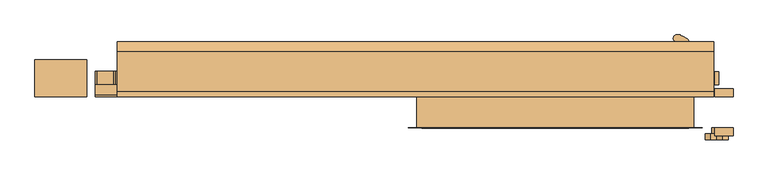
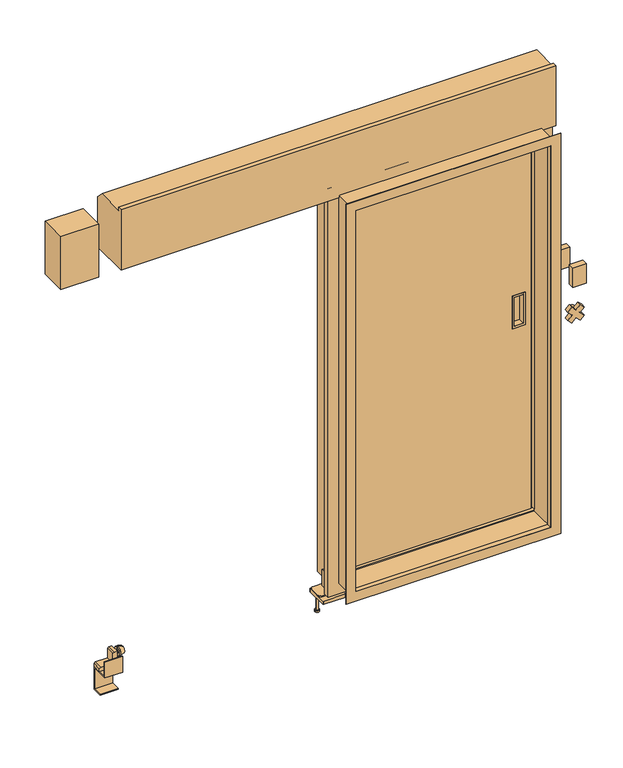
"""IFC4 building model written with IfcOpenShell, lengths in millimetres: door geometry, 冷凍_片引きスライドドア4方_電動 : W870xH1800xt100."""

from ifc_helpers import new_model, si_unit, point, frame, frame_2d, origin, place, context, project, spatial, polyline, circle_curve, trimmed, segment, composite_curve, outline, extrude, faceted_brep, source, transform, mapped, element, save
from ifc_brep_helpers import plane_surface, cylinder_surface, revolved_surface, advanced_brep


def door_05fedcf8(model_context):
    return source(origin(), model_context, "Body", "SolidModel", [
        faceted_brep([(470.0, 185.5, 1835.0), (-470.0, 185.5, 1835.0), (-470.0, 96.5, 1835.0), (470.0, 96.5, 1835.0), (470.0, 185.5, -35.0), (470.0, 96.5, -35.0), (-470.0, 96.5, -35.0), (-470.0, 185.5, -35.0), (-425.0, 96.5, 1790.0), (425.0, 96.5, 1790.0), (425.0, 96.5, 10.0), (-425.0, 96.5, 10.0), (-425.0, 85.5, 1790.0), (425.0, 85.5, 1790.0), (425.0, 85.5, 10.0), (-425.0, 85.5, 10.0), (350.500035, 85.5, 1033.0), (390.500035, 85.5, 1033.0), (390.500035, 85.5, 897.0), (350.500035, 85.5, 897.0), (350.500035, 113.5, 1033.0), (390.500035, 113.5, 1033.0), (350.500035, 113.5, 897.0), (390.500035, 113.5, 897.0)], [[[0, 1, 2, 3]], [[4, 5, 6, 7]], [[1, 0, 4, 7]], [[2, 1, 7, 6]], [[3, 2, 6, 5], [8, 9, 10, 11]], [[0, 3, 5, 4]], [[8, 12, 13, 9]], [[10, 14, 15, 11]], [[12, 8, 11, 15]], [[13, 12, 15, 14], [16, 17, 18, 19]], [[9, 13, 14, 10]], [[20, 21, 17, 16]], [[20, 16, 19, 22]], [[22, 19, 18, 23]], [[17, 21, 23, 18]], [[21, 20, 22, 23]]]),
        extrude(outline(polyline([(1042.0, 399.500035), (1042.0, 341.500035), (888.0, 341.500035), (888.0, 399.500035), (1042.0, 399.500035)]), holes=[polyline([(897.0, 390.500035), (897.0, 350.500035), (1033.0, 350.500035), (1033.0, 390.500035), (897.0, 390.500035)])]), frame((0.0, 83.499995, 0.0), z_axis=(0.0, 1.0, 0.0), x_axis=(0.0, 0.0, 1.0)), (0.0, 0.0, 1.0), 2.000005),
        extrude(outline(polyline([(101.49997, -69.99999), (89.49997, -57.99999), (89.49997, 5.00001), (139.5, 5.00001), (139.5, -69.99999), (101.49997, -69.99999)])), frame((-476.0, 0.0, 0.0), z_axis=(1.0, 0.0, 0.0), x_axis=(0.0, 1.0, 0.0)), (0.0, 0.0, 1.0), 6.0),
        extrude(outline(polyline([(101.5, -69.99999), (89.5, -57.99999), (89.5, 5.00001), (139.5, 5.00001), (139.5, -69.99999), (101.5, -69.99999)])), frame((470.0, 0.0, 0.0), z_axis=(1.0, 0.0, 0.0), x_axis=(0.0, 1.0, 0.0)), (0.0, 0.0, 1.0), 6.0),
        extrude(outline(polyline([(470.0, 131.50003), (470.0, 96.5), (-470.0, 96.5), (-470.0, 131.50003), (470.0, 131.50003)])), frame((0.0, 0.0, -69.99999), z_axis=(0.0, 0.0, 1.0), x_axis=(1.0, 0.0, 0.0)), (0.0, 0.0, 1.0), 34.99999),
        extrude(outline(polyline([(-462.9985861, 96.5), (462.9985861, 96.5), (462.9985861, 79.499345), (-462.9985861, 79.499345), (-462.9985861, 96.5)])), frame((0.0, 0.0, -25.0), z_axis=(0.0, 0.0, 1.0), x_axis=(1.0, 0.0, 0.0)), (0.0, 0.0, 1.0), 28.0),
        extrude(outline(polyline([(462.9985861, 77.0), (435.0014439, 77.0), (435.0014439, 96.5), (462.9985861, 96.5), (462.9985861, 77.0)])), frame((0.0, 0.0, 10.0), z_axis=(0.0, 0.0, 1.0), x_axis=(1.0, 0.0, 0.0)), (0.0, 0.0, 1.0), 1780.0),
        extrude(outline(polyline([(-462.9985861, 77.0), (-462.9985861, 96.5), (-435.0014439, 96.5), (-435.0014439, 77.0), (-462.9985861, 77.0)])), frame((0.0, 0.0, 10.0), z_axis=(0.0, 0.0, 1.0), x_axis=(1.0, 0.0, 0.0)), (0.0, 0.0, 1.0), 1780.0),
        extrude(outline(polyline([(462.9985861, 96.5), (462.9985861, 76.9116213), (-462.9985861, 76.9116213), (-462.9985861, 96.5), (462.9985861, 96.5)])), frame((0.0, 0.0, 1797.4986091), z_axis=(0.0, 0.0, 1.0), x_axis=(1.0, 0.0, 0.0)), (0.0, 0.0, 1.0), 28.0),
        extrude(outline(composite_curve([segment(trimmed(circle_curve(frame_2d((-405.4891322, 180.0220459)), 2.0), [point((-405.4891322, 182.0220459))], [point((-403.4891322, 180.0220459))], False, "CARTESIAN"), True, "CONTINUOUS"), segment(polyline([(-403.4891322, 180.0220459), (-403.4891322, 82.0220459)]), True, "CONTINUOUS"), segment(trimmed(circle_curve(frame_2d((-405.4891322, 82.0220459)), 2.0), [point((-403.4891322, 82.0220459))], [point((-405.4891322, 80.0220459))], False, "CARTESIAN"), True, "CONTINUOUS"), segment(polyline([(-405.4891322, 80.0220459), (-503.4891322, 80.0220459)]), True, "CONTINUOUS"), segment(trimmed(circle_curve(frame_2d((-503.4891322, 82.0220459)), 2.0), [point((-503.4891322, 80.0220459))], [point((-505.4891322, 82.0220459))], False, "CARTESIAN"), True, "CONTINUOUS"), segment(polyline([(-505.4891322, 82.0220459), (-505.4891322, 180.0220459)]), True, "CONTINUOUS"), segment(trimmed(circle_curve(frame_2d((-503.4891322, 180.0220459)), 2.0), [point((-505.4891322, 180.0220459))], [point((-503.4891322, 182.0220459))], False, "CARTESIAN"), True, "CONTINUOUS"), segment(polyline([(-503.4891322, 182.0220459), (-405.4891322, 182.0220459)]), True, "CONTINUOUS")], self_intersect=False)), frame((0.0, 0.0, -115.0), z_axis=(0.0, 0.0, 1.0), x_axis=(1.0, 0.0, 0.0)), (0.0, 0.0, 1.0), 15.0),
        extrude(outline(composite_curve([segment(trimmed(circle_curve(frame_2d((503.0, 180.0)), 2.0), [point((503.0, 182.0))], [point((505.0, 180.0))], False, "CARTESIAN"), True, "CONTINUOUS"), segment(polyline([(505.0, 180.0), (505.0, 82.0)]), True, "CONTINUOUS"), segment(trimmed(circle_curve(frame_2d((503.0, 82.0)), 2.0), [point((505.0, 82.0))], [point((503.0, 80.0))], False, "CARTESIAN"), True, "CONTINUOUS"), segment(polyline([(503.0, 80.0), (405.0, 80.0)]), True, "CONTINUOUS"), segment(trimmed(circle_curve(frame_2d((405.0, 82.0)), 2.0), [point((405.0, 80.0))], [point((403.0, 82.0))], False, "CARTESIAN"), True, "CONTINUOUS"), segment(polyline([(403.0, 82.0), (403.0, 180.0)]), True, "CONTINUOUS"), segment(trimmed(circle_curve(frame_2d((405.0, 180.0)), 2.0), [point((403.0, 180.0))], [point((405.0, 182.0))], False, "CARTESIAN"), True, "CONTINUOUS"), segment(polyline([(405.0, 182.0), (503.0, 182.0)]), True, "CONTINUOUS")], self_intersect=False)), frame((0.0, 0.0, -115.0), z_axis=(0.0, 0.0, 1.0), x_axis=(1.0, 0.0, 0.0)), (0.0, 0.0, 1.0), 15.0),
        extrude(outline(composite_curve([segment(polyline([(-495.00008, 179.49999), (-444.00008, 179.49999)]), True, "CONTINUOUS"), segment(trimmed(circle_curve(frame_2d((-444.00008, 169.49999)), 10.0), [point((-444.00008, 179.49999))], [point((-434.00008, 169.49999))], False, "CARTESIAN"), True, "CONTINUOUS"), segment(polyline([(-434.00008, 169.49999), (-434.00008, 118.49999)]), True, "CONTINUOUS"), segment(trimmed(circle_curve(frame_2d((-444.00008, 118.49999)), 10.0), [point((-434.00008, 118.49999))], [point((-444.00008, 108.49999))], False, "CARTESIAN"), True, "CONTINUOUS"), segment(polyline([(-444.00008, 108.49999), (-495.00008, 108.49999)]), True, "CONTINUOUS"), segment(trimmed(circle_curve(frame_2d((-495.00008, 118.49999)), 10.0), [point((-495.00008, 108.49999))], [point((-505.00008, 118.49999))], False, "CARTESIAN"), True, "CONTINUOUS"), segment(polyline([(-505.00008, 118.49999), (-505.00008, 169.49999)]), True, "CONTINUOUS"), segment(trimmed(circle_curve(frame_2d((-495.00008, 169.49999)), 10.0), [point((-505.00008, 169.49999))], [point((-495.00008, 179.49999))], False, "CARTESIAN"), True, "CONTINUOUS")], self_intersect=False)), frame((0.0, 0.0, -100.0), z_axis=(0.0, 0.0, 1.0), x_axis=(1.0, 0.0, 0.0)), (0.0, 0.0, 1.0), 6.0),
        extrude(outline(composite_curve([segment(polyline([(504.50008, 169.49999), (504.50008, 118.49999)]), True, "CONTINUOUS"), segment(trimmed(circle_curve(frame_2d((494.50008, 118.49999)), 10.0), [point((504.50008, 118.49999))], [point((494.50008, 108.49999))], False, "CARTESIAN"), True, "CONTINUOUS"), segment(polyline([(494.50008, 108.49999), (443.499285, 108.49999)]), True, "CONTINUOUS"), segment(trimmed(circle_curve(frame_2d((443.499285, 118.49999)), 10.0), [point((443.499285, 108.49999))], [point((433.499285, 118.49999))], False, "CARTESIAN"), True, "CONTINUOUS"), segment(polyline([(433.499285, 118.49999), (433.499285, 169.49999)]), True, "CONTINUOUS"), segment(trimmed(circle_curve(frame_2d((443.499285, 169.49999)), 10.0), [point((433.499285, 169.49999))], [point((443.499285, 179.49999))], False, "CARTESIAN"), True, "CONTINUOUS"), segment(polyline([(443.499285, 179.49999), (494.50008, 179.49999)]), True, "CONTINUOUS"), segment(trimmed(circle_curve(frame_2d((494.50008, 169.49999)), 10.0), [point((494.50008, 179.49999))], [point((504.50008, 169.49999))], False, "CARTESIAN"), True, "CONTINUOUS")], self_intersect=False)), frame((0.0, 0.0, -100.0), z_axis=(0.0, 0.0, 1.0), x_axis=(1.0, 0.0, 0.0)), (0.0, 0.0, 1.0), 6.0),
        extrude(outline(polyline([(-93.999374, 532.0), (-24.00937, 532.0), (-24.00229, 517.0), (-29.00275, 511.99999), (-74.00938, 511.99999), (-74.00689, 457.0), (-79.00735, 451.99999), (-94.00939, 451.99999), (-93.999374, 532.0)])), frame((0.0, 90.0, 0.0), z_axis=(0.0, 1.0, 0.0), x_axis=(0.0, 0.0, 1.0)), (0.0, 0.0, 1.0), 42.00225),
        extrude(outline(polyline([(1037.123106, 544.9454365), (1017.6776695, 525.5), (1037.123106, 506.0545635), (1019.4454365, 488.376894), (1000.0, 507.8223305), (980.5545635, 488.376894), (962.876894, 506.0545635), (982.3223305, 525.5), (962.876894, 544.9454365), (980.5545635, 562.623106), (1000.0, 543.1776695), (1019.4454365, 562.623106), (1037.123106, 544.9454365)])), frame((0.0, -90.0, 0.0), z_axis=(0.0, 1.0, 0.0), x_axis=(0.0, 0.0, 1.0)), (0.0, 0.0, 1.0), 20.0),
        extrude(outline(composite_curve([segment(trimmed(circle_curve(frame_2d((1000.0, 525.5)), 16.99999), [point((983.00001, 525.5))], [point((1016.99999, 525.5))], False, "CARTESIAN"), True, "CONTINUOUS"), segment(trimmed(circle_curve(frame_2d((1000.0, 525.5)), 16.99999), [point((1016.99999, 525.5))], [point((983.00001, 525.5))], False, "CARTESIAN"), True, "CONTINUOUS")], self_intersect=False)), frame((0.0, -70.0, 0.0), z_axis=(0.0, 1.0, 0.0), x_axis=(0.0, 0.0, 1.0)), (0.0, 0.0, 1.0), 20.0),
        advanced_brep(
        [(-1404.999995, 113.0, -58.99311), (-1404.999995, 113.0, -19.0), (-1404.999995, 113.0, -30.996555), (-1404.999995, 113.0, -46.996555), (-1400.999995, 113.0, -58.99311), (-1400.999995, 113.0, -19.0), (-1380.999995, 113.0, -53.9931073), (-1380.999995, 113.0, -24.0000027), (-1380.999995, 113.0, -38.996555), (-1416.99999, 113.0, -46.996555), (-1416.99999, 113.0, -30.996555), (-1416.99999, 113.0, -38.996555)],
        [
            (0, 1, circle_curve(frame((-1404.999995, 113.0, -38.996555), z_axis=(-1.0, 0.0, 0.0), x_axis=(0.0, 0.0, 1.0)), 19.996555)),
            (1, 2),
            (2, 3, circle_curve(frame((-1404.999995, 113.0, -38.996555), z_axis=(1.0, 0.0, 0.0), x_axis=(0.0, 0.0, 1.0)), 8.0)),
            (3, 0),
            (1, 0, circle_curve(frame((-1404.999995, 113.0, -38.996555), z_axis=(-1.0, 0.0, 0.0), x_axis=(0.0, 0.0, 1.0)), 19.996555)),
            (3, 2, circle_curve(frame((-1404.999995, 113.0, -38.996555), z_axis=(1.0, 0.0, 0.0), x_axis=(0.0, 0.0, 1.0)), 8.0)),
            (4, 5, circle_curve(frame((-1400.999995, 113.0, -38.996555), z_axis=(-1.0, 0.0, 0.0), x_axis=(0.0, 0.0, 1.0)), 19.996555)),
            (5, 1),
            (0, 4),
            (5, 4, circle_curve(frame((-1400.999995, 113.0, -38.996555), z_axis=(-1.0, 0.0, 0.0), x_axis=(0.0, 0.0, 1.0)), 19.996555)),
            (6, 7, circle_curve(frame((-1380.999995, 113.0, -38.996555), z_axis=(-1.0, 0.0, 0.0), x_axis=(0.0, 0.0, 1.0)), 14.9965523)),
            (7, 5),
            (4, 6),
            (7, 6, circle_curve(frame((-1380.999995, 113.0, -38.996555), z_axis=(-1.0, 0.0, 0.0), x_axis=(0.0, 0.0, 1.0)), 14.9965523)),
            (8, 7),
            (6, 8),
            (9, 10, circle_curve(frame((-1416.99999, 113.0, -38.996555), z_axis=(-1.0, 0.0, 0.0), x_axis=(0.0, 0.0, 1.0)), 8.0)),
            (10, 11),
            (11, 9),
            (10, 9, circle_curve(frame((-1416.99999, 113.0, -38.996555), z_axis=(-1.0, 0.0, 0.0), x_axis=(0.0, 0.0, 1.0)), 8.0)),
            (2, 10),
            (9, 3),
        ],
        [
            plane_surface(frame((-1404.999995, 113.0, -38.996555), z_axis=(-1.0, 0.0, 0.0), x_axis=(0.0, 0.0, 1.0))),
            cylinder_surface(frame((-1380.999995, 113.0, -38.996555), z_axis=(1.0, 0.0, 0.0), x_axis=(0.0, 0.0, 1.0)), 19.996555),
            revolved_surface(polyline([(-1400.999995, 113.0, -19.0), (-1380.999995, 113.0, -24.0000027)]), (-1380.999995, 113.0, -38.996555), (1.0, 0.0, 0.0)),
            plane_surface(frame((-1380.999995, 113.0, -38.996555), z_axis=(1.0, 0.0, 0.0), x_axis=(0.0, 0.0, 1.0))),
            plane_surface(frame((-1416.99999, 113.0, -38.996555), z_axis=(-1.0, 0.0, 0.0), x_axis=(0.0, 0.0, 1.0))),
            cylinder_surface(frame((-1380.999995, 113.0, -38.996555), z_axis=(1.0, 0.0, 0.0), x_axis=(0.0, 0.0, 1.0)), 8.0),
        ],
        [
            (0, [[1, 2, 3, 4]]),
            (0, [[5, -4, 6, -2]]),
            (1, [[7, 8, -1, 9]]),
            (1, [[10, -9, -5, -8]]),
            (2, [[11, 12, -7, 13]]),
            (2, [[14, -13, -10, -12]]),
            (3, [[15, -11, 16]]),
            (3, [[-16, -14, -15]]),
            (4, [[17, 18, 19]]),
            (4, [[20, -19, -18]]),
            (5, [[-3, 21, -17, 22]]),
            (5, [[-6, -22, -20, -21]]),
        ],
    ),
        extrude(outline(polyline([(-91.983954, -1416.99999), (-21.99395, -1416.99999), (-21.98687, -1431.99999), (-26.98733, -1437.0), (-71.99396, -1437.0), (-71.99147, -1491.99999), (-76.99193, -1497.0), (-91.99397, -1497.0), (-91.983954, -1416.99999)])), frame((0.0, 91.99775, 0.0), z_axis=(0.0, 1.0, 0.0), x_axis=(0.0, 0.0, 1.0)), (0.0, 0.0, 1.0), 42.00225),
        advanced_brep(
        [(499.999995, 111.0, -61.00853), (499.999995, 111.0, -21.01542), (499.999995, 111.0, -33.011975), (499.999995, 111.0, -49.011975), (495.999995, 111.0, -61.00853), (495.999995, 111.0, -21.01542), (475.999995, 111.0, -56.0085273), (475.999995, 111.0, -26.0154227), (475.999995, 111.0, -41.011975), (511.99999, 111.0, -49.011975), (511.99999, 111.0, -33.011975), (511.99999, 111.0, -41.011975)],
        [
            (0, 1, circle_curve(frame((499.999995, 111.0, -41.011975), z_axis=(1.0, 0.0, 0.0), x_axis=(0.0, 0.0, 1.0)), 19.996555)),
            (1, 2),
            (2, 3, circle_curve(frame((499.999995, 111.0, -41.011975), z_axis=(-1.0, 0.0, 0.0), x_axis=(0.0, 0.0, 1.0)), 8.0)),
            (3, 0),
            (1, 0, circle_curve(frame((499.999995, 111.0, -41.011975), z_axis=(1.0, 0.0, 0.0), x_axis=(0.0, 0.0, 1.0)), 19.996555)),
            (3, 2, circle_curve(frame((499.999995, 111.0, -41.011975), z_axis=(-1.0, 0.0, 0.0), x_axis=(0.0, 0.0, 1.0)), 8.0)),
            (4, 5, circle_curve(frame((495.999995, 111.0, -41.011975), z_axis=(1.0, 0.0, 0.0), x_axis=(0.0, 0.0, 1.0)), 19.996555)),
            (5, 1),
            (0, 4),
            (5, 4, circle_curve(frame((495.999995, 111.0, -41.011975), z_axis=(1.0, 0.0, 0.0), x_axis=(0.0, 0.0, 1.0)), 19.996555)),
            (6, 7, circle_curve(frame((475.999995, 111.0, -41.011975), z_axis=(1.0, 0.0, 0.0), x_axis=(0.0, 0.0, 1.0)), 14.9965523)),
            (7, 5),
            (4, 6),
            (7, 6, circle_curve(frame((475.999995, 111.0, -41.011975), z_axis=(1.0, 0.0, 0.0), x_axis=(0.0, 0.0, 1.0)), 14.9965523)),
            (8, 7),
            (6, 8),
            (9, 10, circle_curve(frame((511.99999, 111.0, -41.011975), z_axis=(1.0, 0.0, 0.0), x_axis=(0.0, 0.0, 1.0)), 8.0)),
            (10, 11),
            (11, 9),
            (10, 9, circle_curve(frame((511.99999, 111.0, -41.011975), z_axis=(1.0, 0.0, 0.0), x_axis=(0.0, 0.0, 1.0)), 8.0)),
            (2, 10),
            (9, 3),
        ],
        [
            plane_surface(frame((499.999995, 111.0, -41.011975), z_axis=(1.0, 0.0, 0.0), x_axis=(0.0, 0.0, 1.0))),
            cylinder_surface(frame((475.999995, 111.0, -41.011975), z_axis=(-1.0, 0.0, 0.0), x_axis=(0.0, 0.0, 1.0)), 19.996555),
            revolved_surface(polyline([(495.999995, 111.0, -21.01542), (475.999995, 111.0, -26.0154227)]), (475.999995, 111.0, -41.011975), (-1.0, 0.0, 0.0)),
            plane_surface(frame((475.999995, 111.0, -41.011975), z_axis=(-1.0, 0.0, 0.0), x_axis=(0.0, 0.0, 1.0))),
            plane_surface(frame((511.99999, 111.0, -41.011975), z_axis=(1.0, 0.0, 0.0), x_axis=(0.0, 0.0, 1.0))),
            cylinder_surface(frame((475.999995, 111.0, -41.011975), z_axis=(-1.0, 0.0, 0.0), x_axis=(0.0, 0.0, 1.0)), 8.0),
        ],
        [
            (0, [[1, 2, 3, 4]]),
            (0, [[5, -4, 6, -2]]),
            (1, [[7, 8, -1, 9]]),
            (1, [[10, -9, -5, -8]]),
            (2, [[11, 12, -7, 13]]),
            (2, [[14, -13, -10, -12]]),
            (3, [[15, -11, 16]]),
            (3, [[-16, -14, -15]]),
            (4, [[17, 18, 19]]),
            (4, [[20, -19, -18]]),
            (5, [[-3, 21, -17, 22]]),
            (5, [[-6, -22, -20, -21]]),
        ],
    ),
        extrude(outline(polyline([(228.5, 2042.61005), (228.5, 1805.000385), (50.0, 1805.000385), (50.0, 2090.0), (66.499875, 2090.0), (66.499875, 2074.99995), (196.1101, 2074.99995), (228.5, 2042.61005)])), frame((-1425.0, 0.0, 0.0), z_axis=(1.0, 0.0, 0.0), x_axis=(0.0, 1.0, 0.0)), (0.0, 0.0, 1.0), 1940.0),
        extrude(outline(polyline([(578.59682, -77.2), (518.59706, -77.2), (518.59706, -50.0), (578.59682, -50.0), (578.59682, -77.2)])), frame((0.0, 0.0, 1117.99977), z_axis=(0.0, 0.0, 1.0), x_axis=(1.0, 0.0, 0.0)), (0.0, 0.0, 1.0), 93.00027),
        extrude(outline(polyline([(578.59682, 50.0), (518.59706, 50.0), (518.59706, 77.2056305), (578.59682, 77.2056305), (578.59682, 50.0)])), frame((0.0, 0.0, 1117.99977), z_axis=(0.0, 0.0, 1.0), x_axis=(1.0, 0.0, 0.0)), (0.0, 0.0, 1.0), 93.00027),
        faceted_brep([(451.00103, 50.0, -16.00103), (451.00103, -50.0, -16.00103), (-451.00103, -50.0, -16.00103), (-451.00103, 50.0, -16.00103), (-451.00103, -50.0, 1816.00103), (-451.00103, 50.0, 1816.00103), (451.00103, -50.0, 1816.00103), (-435.0, -50.0, 1800.0), (435.0, -50.0, 1800.0), (435.0, -50.0, 0.0), (-435.0, -50.0, 0.0), (-500.0, 50.0, -65.0), (500.0, 50.0, -65.0), (500.0, 50.0, 1865.0), (-500.0, 50.0, 1865.0), (451.00103, 50.0, 1816.00103), (500.0, 77.0, -65.0), (-500.0, 77.0, -65.0), (-500.0, 77.0, 1865.0), (500.0, 77.0, 1865.0), (-435.0, 77.0, 0.0), (435.0, 77.0, 0.0), (435.0, 77.0, 1800.0), (-435.0, 77.0, 1800.0)], [[[0, 1, 2, 3]], [[3, 2, 4, 5]], [[2, 1, 6, 4], [7, 8, 9, 10]], [[11, 12, 13, 14], [5, 15, 0, 3]], [[16, 12, 11, 17]], [[17, 11, 14, 18]], [[18, 19, 16, 17], [20, 21, 22, 23]], [[9, 21, 20, 10]], [[10, 20, 23, 7]], [[15, 6, 1, 0]], [[19, 13, 12, 16]], [[8, 22, 21, 9]], [[5, 4, 6, 15]], [[18, 14, 13, 19]], [[7, 23, 22, 8]]]),
        faceted_brep([(479.0, -50.0, -44.0), (479.0, -51.2, -44.0), (-479.0, -51.2, -44.0), (-479.0, -50.0, -44.0), (-479.0, -51.2, 1844.0), (-479.0, -50.0, 1844.0), (479.0, -51.2, 1844.0), (-433.8, -51.2, 1798.8), (433.8, -51.2, 1798.8), (433.8, -51.2, 1.2), (-433.8, -51.2, 1.2), (479.0, -50.0, 1844.0), (-435.0, -50.0, 0.0), (435.0, -50.0, 0.0), (435.0, -50.0, 1800.0), (-435.0, -50.0, 1800.0), (435.0, -29.2, 0.0), (-435.0, -29.2, 0.0), (-435.0, -29.2, 1800.0), (435.0, -29.2, 1800.0), (-433.8, -29.2, 1.2), (433.8, -29.2, 1.2), (433.8, -29.2, 1798.8), (-433.8, -29.2, 1798.8)], [[[0, 1, 2, 3]], [[3, 2, 4, 5]], [[2, 1, 6, 4], [7, 8, 9, 10]], [[5, 11, 0, 3], [12, 13, 14, 15]], [[16, 13, 12, 17]], [[17, 12, 15, 18]], [[18, 19, 16, 17], [20, 21, 22, 23]], [[9, 21, 20, 10]], [[10, 20, 23, 7]], [[11, 6, 1, 0]], [[19, 14, 13, 16]], [[8, 22, 21, 9]], [[5, 4, 6, 11]], [[18, 15, 14, 19]], [[7, 23, 22, 8]]]),
        advanced_brep(
        [(408.6234406, 250.3571279, 745.0), (408.6234402, 230.6428419, 745.0), (404.50281, 229.499985, 745.0), (393.89726, 229.499985, 745.0), (389.7766295, 230.6428424, 745.0), (389.7766298, 250.3571281, 745.0), (393.89726, 251.499985, 745.0), (404.50281, 251.499985, 745.0), (408.6234406, 250.3571279, 1245.0), (408.6234402, 230.6428419, 1245.0), (404.50281, 229.499985, 1245.0), (393.89726, 229.499985, 1245.0), (389.7766295, 230.6428424, 1245.0), (389.7766298, 250.3571281, 1245.0), (393.89726, 251.499985, 1245.0), (404.50281, 251.499985, 1245.0)],
        [
            (0, 1, circle_curve(frame((402.700035, 240.499985, 745.0), z_axis=(0.0, 0.0, -1.0), x_axis=(0.0, -1.0, 0.0)), 11.5)),
            (1, 2, circle_curve(frame((404.50281, 237.499985, 745.0), z_axis=(0.0, 0.0, -1.0), x_axis=(0.0, -1.0, 0.0)), 8.0)),
            (2, 3),
            (3, 4, circle_curve(frame((393.89726, 237.499985, 745.0), z_axis=(0.0, 0.0, -1.0), x_axis=(0.0, -1.0, 0.0)), 8.0)),
            (4, 5, circle_curve(frame((395.700035, 240.499985, 745.0), z_axis=(0.0, 0.0, -1.0), x_axis=(0.0, -1.0, 0.0)), 11.5)),
            (5, 6, circle_curve(frame((393.89726, 243.499985, 745.0), z_axis=(0.0, 0.0, -1.0), x_axis=(0.0, -1.0, 0.0)), 8.0)),
            (6, 7),
            (7, 0, circle_curve(frame((404.50281, 243.499985, 745.0), z_axis=(0.0, 0.0, -1.0), x_axis=(0.0, -1.0, 0.0)), 8.0)),
            (8, 9, circle_curve(frame((402.700035, 240.499985, 1245.0), z_axis=(0.0, 0.0, -1.0), x_axis=(0.0, -1.0, 0.0)), 11.5)),
            (9, 1),
            (0, 8),
            (9, 10, circle_curve(frame((404.50281, 237.499985, 1245.0), z_axis=(0.0, 0.0, -1.0), x_axis=(0.0, -1.0, 0.0)), 8.0)),
            (10, 2),
            (10, 11),
            (11, 3),
            (11, 12, circle_curve(frame((393.89726, 237.499985, 1245.0), z_axis=(0.0, 0.0, -1.0), x_axis=(0.0, -1.0, 0.0)), 8.0)),
            (12, 4),
            (12, 13, circle_curve(frame((395.700035, 240.499985, 1245.0), z_axis=(0.0, 0.0, -1.0), x_axis=(0.0, -1.0, 0.0)), 11.5)),
            (13, 5),
            (13, 14, circle_curve(frame((393.89726, 243.499985, 1245.0), z_axis=(0.0, 0.0, -1.0), x_axis=(0.0, -1.0, 0.0)), 8.0)),
            (14, 6),
            (14, 15),
            (15, 7),
            (15, 8, circle_curve(frame((404.50281, 243.499985, 1245.0), z_axis=(0.0, 0.0, -1.0), x_axis=(0.0, -1.0, 0.0)), 8.0)),
        ],
        [
            plane_surface(frame((404.50281, 235.499985, 745.0), z_axis=(0.0, 0.0, -1.0), x_axis=(-1.0, 0.0, 0.0))),
            cylinder_surface(frame((402.700035, 240.499985, 745.0), z_axis=(0.0, 0.0, 1.0), x_axis=(0.0, -1.0, 0.0)), 11.5),
            cylinder_surface(frame((404.50281, 237.499985, 745.0), z_axis=(0.0, 0.0, 1.0), x_axis=(0.0, -1.0, 0.0)), 8.0),
            plane_surface(frame((393.89726, 229.499985, 1245.0), z_axis=(0.0, -1.0, 0.0), x_axis=(0.0, 0.0, -1.0))),
            cylinder_surface(frame((393.89726, 237.499985, 745.0), z_axis=(0.0, 0.0, 1.0), x_axis=(0.0, -1.0, 0.0)), 8.0),
            cylinder_surface(frame((395.700035, 240.499985, 745.0), z_axis=(0.0, 0.0, 1.0), x_axis=(0.0, -1.0, 0.0)), 11.5),
            cylinder_surface(frame((393.89726, 243.499985, 745.0), z_axis=(0.0, 0.0, 1.0), x_axis=(0.0, -1.0, 0.0)), 8.0),
            plane_surface(frame((404.50281, 251.499985, 1245.0), z_axis=(0.0, 1.0, 0.0), x_axis=(0.0, 0.0, -1.0))),
            cylinder_surface(frame((404.50281, 243.499985, 745.0), z_axis=(0.0, 0.0, 1.0), x_axis=(0.0, -1.0, 0.0)), 8.0),
            plane_surface(frame((404.50281, 235.499985, 1245.0), z_axis=(0.0, 0.0, 1.0), x_axis=(1.0, 0.0, 0.0))),
        ],
        [
            (0, [[1, 2, 3, 4, 5, 6, 7, 8]]),
            (1, [[9, 10, -1, 11]]),
            (2, [[12, 13, -2, -10]]),
            (3, [[14, 15, -3, -13]]),
            (4, [[16, 17, -4, -15]]),
            (5, [[18, 19, -5, -17]]),
            (6, [[20, 21, -6, -19]]),
            (7, [[22, 23, -7, -21]]),
            (8, [[24, -11, -8, -23]]),
            (9, [[-24, -22, -20, -18, -16, -14, -12, -9]]),
        ],
    ),
        advanced_brep(
        [(-486.00008, 160.5, -200.0), (-476.00008, 160.5, -200.0), (-496.00008, 160.5, -200.0), (-491.00008, 160.5, -115.0), (-481.00008, 160.5, -115.0), (-486.00008, 160.5, -115.0), (-491.00008, 160.5, -193.0), (-481.00008, 160.5, -193.0), (-496.00008, 160.5, -193.0), (-476.00008, 160.5, -193.0)],
        [
            (0, 1),
            (1, 2, circle_curve(frame((-486.00008, 160.5, -200.0), z_axis=(0.0, 0.0, -1.0), x_axis=(1.0, 0.0, 0.0)), 10.0)),
            (2, 0),
            (2, 1, circle_curve(frame((-486.00008, 160.5, -200.0), z_axis=(0.0, 0.0, -1.0), x_axis=(1.0, 0.0, 0.0)), 10.0)),
            (3, 4, circle_curve(frame((-486.00008, 160.5, -115.0), z_axis=(0.0, 0.0, 1.0), x_axis=(1.0, 0.0, 0.0)), 5.0)),
            (4, 5),
            (5, 3),
            (4, 3, circle_curve(frame((-486.00008, 160.5, -115.0), z_axis=(0.0, 0.0, 1.0), x_axis=(1.0, 0.0, 0.0)), 5.0)),
            (6, 7, circle_curve(frame((-486.00008, 160.5, -193.0), z_axis=(0.0, 0.0, 1.0), x_axis=(1.0, 0.0, 0.0)), 5.0)),
            (7, 4),
            (3, 6),
            (7, 6, circle_curve(frame((-486.00008, 160.5, -193.0), z_axis=(0.0, 0.0, 1.0), x_axis=(1.0, 0.0, 0.0)), 5.0)),
            (8, 9, circle_curve(frame((-486.00008, 160.5, -193.0), z_axis=(0.0, 0.0, 1.0), x_axis=(1.0, 0.0, 0.0)), 10.0)),
            (9, 7),
            (6, 8),
            (9, 8, circle_curve(frame((-486.00008, 160.5, -193.0), z_axis=(0.0, 0.0, 1.0), x_axis=(1.0, 0.0, 0.0)), 10.0)),
            (1, 9),
            (8, 2),
        ],
        [
            plane_surface(frame((-486.00008, 160.5, -200.0), z_axis=(0.0, 0.0, -1.0), x_axis=(1.0, 0.0, 0.0))),
            plane_surface(frame((-486.00008, 160.5, -115.0), z_axis=(0.0, 0.0, 1.0), x_axis=(1.0, 0.0, 0.0))),
            cylinder_surface(frame((-486.00008, 160.5, -262.0), z_axis=(0.0, 0.0, -1.0), x_axis=(1.0, 0.0, 0.0)), 5.0),
            plane_surface(frame((-486.00008, 160.5, -193.0), z_axis=(0.0, 0.0, 1.0), x_axis=(1.0, 0.0, 0.0))),
            cylinder_surface(frame((-486.00008, 160.5, -262.0), z_axis=(0.0, 0.0, -1.0), x_axis=(1.0, 0.0, 0.0)), 10.0),
        ],
        [
            (0, [[1, 2, 3]]),
            (0, [[-3, 4, -1]]),
            (1, [[5, 6, 7]]),
            (1, [[8, -7, -6]]),
            (2, [[9, 10, -5, 11]]),
            (2, [[12, -11, -8, -10]]),
            (3, [[13, 14, -9, 15]]),
            (3, [[16, -15, -12, -14]]),
            (4, [[-2, 17, -13, 18]]),
            (4, [[-4, -18, -16, -17]]),
        ],
    ),
        advanced_brep(
        [(485.50008, 160.5, -200.0), (495.50008, 160.5, -200.0), (475.50008, 160.5, -200.0), (480.50008, 160.5, -115.0), (490.50008, 160.5, -115.0), (485.50008, 160.5, -115.0), (480.50008, 160.5, -193.0), (490.50008, 160.5, -193.0), (475.50008, 160.5, -193.0), (495.50008, 160.5, -193.0)],
        [
            (0, 1),
            (1, 2, circle_curve(frame((485.50008, 160.5, -200.0), z_axis=(0.0, 0.0, -1.0), x_axis=(1.0, 0.0, 0.0)), 10.0)),
            (2, 0),
            (2, 1, circle_curve(frame((485.50008, 160.5, -200.0), z_axis=(0.0, 0.0, -1.0), x_axis=(1.0, 0.0, 0.0)), 10.0)),
            (3, 4, circle_curve(frame((485.50008, 160.5, -115.0), z_axis=(0.0, 0.0, 1.0), x_axis=(1.0, 0.0, 0.0)), 5.0)),
            (4, 5),
            (5, 3),
            (4, 3, circle_curve(frame((485.50008, 160.5, -115.0), z_axis=(0.0, 0.0, 1.0), x_axis=(1.0, 0.0, 0.0)), 5.0)),
            (6, 7, circle_curve(frame((485.50008, 160.5, -193.0), z_axis=(0.0, 0.0, 1.0), x_axis=(1.0, 0.0, 0.0)), 5.0)),
            (7, 4),
            (3, 6),
            (7, 6, circle_curve(frame((485.50008, 160.5, -193.0), z_axis=(0.0, 0.0, 1.0), x_axis=(1.0, 0.0, 0.0)), 5.0)),
            (8, 9, circle_curve(frame((485.50008, 160.5, -193.0), z_axis=(0.0, 0.0, 1.0), x_axis=(1.0, 0.0, 0.0)), 10.0)),
            (9, 7),
            (6, 8),
            (9, 8, circle_curve(frame((485.50008, 160.5, -193.0), z_axis=(0.0, 0.0, 1.0), x_axis=(1.0, 0.0, 0.0)), 10.0)),
            (1, 9),
            (8, 2),
        ],
        [
            plane_surface(frame((485.50008, 160.5, -200.0), z_axis=(0.0, 0.0, -1.0), x_axis=(1.0, 0.0, 0.0))),
            plane_surface(frame((485.50008, 160.5, -115.0), z_axis=(0.0, 0.0, 1.0), x_axis=(1.0, 0.0, 0.0))),
            cylinder_surface(frame((485.50008, 160.5, -262.0), z_axis=(0.0, 0.0, -1.0), x_axis=(1.0, 0.0, 0.0)), 5.0),
            plane_surface(frame((485.50008, 160.5, -193.0), z_axis=(0.0, 0.0, 1.0), x_axis=(1.0, 0.0, 0.0))),
            cylinder_surface(frame((485.50008, 160.5, -262.0), z_axis=(0.0, 0.0, -1.0), x_axis=(1.0, 0.0, 0.0)), 10.0),
        ],
        [
            (0, [[1, 2, 3]]),
            (0, [[-3, 4, -1]]),
            (1, [[5, 6, 7]]),
            (1, [[8, -7, -6]]),
            (2, [[9, 10, -5, 11]]),
            (2, [[12, -11, -8, -10]]),
            (3, [[13, 14, -9, 15]]),
            (3, [[16, -15, -12, -14]]),
            (4, [[-2, 17, -13, 18]]),
            (4, [[-4, -18, -16, -17]]),
        ],
    ),
        advanced_brep(
        [(460.499285, 160.5, -72.0), (444.499285, 160.5, -72.0), (444.499285, 160.5, -94.0), (460.499285, 160.5, -94.0), (452.499285, 160.5, -94.0), (452.499285, 160.5, -47.0), (440.499285, 160.5, -47.0), (464.499285, 160.5, -47.0), (440.499285, 160.5, -72.0), (464.499285, 160.5, -72.0)],
        [
            (0, 1, circle_curve(frame((452.499285, 160.5, -72.0), z_axis=(0.0, 0.0, -1.0), x_axis=(-1.0, 0.0, 0.0)), 8.0)),
            (1, 2),
            (2, 3, circle_curve(frame((452.499285, 160.5, -94.0), z_axis=(0.0, 0.0, 1.0), x_axis=(-1.0, 0.0, 0.0)), 8.0)),
            (3, 0),
            (1, 0, circle_curve(frame((452.499285, 160.5, -72.0), z_axis=(0.0, 0.0, -1.0), x_axis=(-1.0, 0.0, 0.0)), 8.0)),
            (3, 2, circle_curve(frame((452.499285, 160.5, -94.0), z_axis=(0.0, 0.0, 1.0), x_axis=(-1.0, 0.0, 0.0)), 8.0)),
            (2, 4),
            (4, 3),
            (5, 6),
            (6, 7, circle_curve(frame((452.499285, 160.5, -47.0), z_axis=(0.0, 0.0, 1.0), x_axis=(-1.0, 0.0, 0.0)), 12.0)),
            (7, 5),
            (7, 6, circle_curve(frame((452.499285, 160.5, -47.0), z_axis=(0.0, 0.0, 1.0), x_axis=(-1.0, 0.0, 0.0)), 12.0)),
            (6, 8),
            (8, 9, circle_curve(frame((452.499285, 160.5, -72.0), z_axis=(0.0, 0.0, 1.0), x_axis=(-1.0, 0.0, 0.0)), 12.0)),
            (9, 7),
            (9, 8, circle_curve(frame((452.499285, 160.5, -72.0), z_axis=(0.0, 0.0, 1.0), x_axis=(-1.0, 0.0, 0.0)), 12.0)),
            (8, 1),
            (0, 9),
        ],
        [
            cylinder_surface(frame((452.499285, 160.5, -108.3617704), z_axis=(0.0, 0.0, 1.0), x_axis=(-1.0, 0.0, 0.0)), 8.0),
            plane_surface(frame((452.499285, 160.5, -94.0), z_axis=(0.0, 0.0, -1.0), x_axis=(-1.0, 0.0, 0.0))),
            plane_surface(frame((452.499285, 160.5, -47.0), z_axis=(0.0, 0.0, 1.0), x_axis=(-1.0, 0.0, 0.0))),
            cylinder_surface(frame((452.499285, 160.5, -108.3617704), z_axis=(0.0, 0.0, 1.0), x_axis=(-1.0, 0.0, 0.0)), 12.0),
            plane_surface(frame((452.499285, 160.5, -72.0), z_axis=(0.0, 0.0, -1.0), x_axis=(-1.0, 0.0, 0.0))),
        ],
        [
            (0, [[1, 2, 3, 4]]),
            (0, [[5, -4, 6, -2]]),
            (1, [[-3, 7, 8]]),
            (1, [[-6, -8, -7]]),
            (2, [[9, 10, 11]]),
            (2, [[-11, 12, -9]]),
            (3, [[-10, 13, 14, 15]]),
            (3, [[-12, -15, 16, -13]]),
            (4, [[-14, 17, -1, 18]]),
            (4, [[-16, -18, -5, -17]]),
        ],
    ),
        advanced_brep(
        [(-444.999285, 127.5, -72.0), (-460.999285, 127.5, -72.0), (-460.999285, 127.5, -94.0), (-444.999285, 127.5, -94.0), (-452.999285, 127.5, -94.0), (-452.999285, 127.5, -47.0), (-464.999285, 127.5, -47.0), (-440.999285, 127.5, -47.0), (-464.999285, 127.5, -72.0), (-440.999285, 127.5, -72.0)],
        [
            (0, 1, circle_curve(frame((-452.999285, 127.5, -72.0), z_axis=(0.0, 0.0, -1.0), x_axis=(-1.0, 0.0, 0.0)), 8.0)),
            (1, 2),
            (2, 3, circle_curve(frame((-452.999285, 127.5, -94.0), z_axis=(0.0, 0.0, 1.0), x_axis=(-1.0, 0.0, 0.0)), 8.0)),
            (3, 0),
            (1, 0, circle_curve(frame((-452.999285, 127.5, -72.0), z_axis=(0.0, 0.0, -1.0), x_axis=(-1.0, 0.0, 0.0)), 8.0)),
            (3, 2, circle_curve(frame((-452.999285, 127.5, -94.0), z_axis=(0.0, 0.0, 1.0), x_axis=(-1.0, 0.0, 0.0)), 8.0)),
            (2, 4),
            (4, 3),
            (5, 6),
            (6, 7, circle_curve(frame((-452.999285, 127.5, -47.0), z_axis=(0.0, 0.0, 1.0), x_axis=(-1.0, 0.0, 0.0)), 12.0)),
            (7, 5),
            (7, 6, circle_curve(frame((-452.999285, 127.5, -47.0), z_axis=(0.0, 0.0, 1.0), x_axis=(-1.0, 0.0, 0.0)), 12.0)),
            (6, 8),
            (8, 9, circle_curve(frame((-452.999285, 127.5, -72.0), z_axis=(0.0, 0.0, 1.0), x_axis=(-1.0, 0.0, 0.0)), 12.0)),
            (9, 7),
            (9, 8, circle_curve(frame((-452.999285, 127.5, -72.0), z_axis=(0.0, 0.0, 1.0), x_axis=(-1.0, 0.0, 0.0)), 12.0)),
            (8, 1),
            (0, 9),
        ],
        [
            cylinder_surface(frame((-452.999285, 127.5, -108.3617704), z_axis=(0.0, 0.0, 1.0), x_axis=(-1.0, 0.0, 0.0)), 8.0),
            plane_surface(frame((-452.999285, 127.5, -94.0), z_axis=(0.0, 0.0, -1.0), x_axis=(-1.0, 0.0, 0.0))),
            plane_surface(frame((-452.999285, 127.5, -47.0), z_axis=(0.0, 0.0, 1.0), x_axis=(-1.0, 0.0, 0.0))),
            cylinder_surface(frame((-452.999285, 127.5, -108.3617704), z_axis=(0.0, 0.0, 1.0), x_axis=(-1.0, 0.0, 0.0)), 12.0),
            plane_surface(frame((-452.999285, 127.5, -72.0), z_axis=(0.0, 0.0, -1.0), x_axis=(-1.0, 0.0, 0.0))),
        ],
        [
            (0, [[1, 2, 3, 4]]),
            (0, [[5, -4, 6, -2]]),
            (1, [[-3, 7, 8]]),
            (1, [[-6, -8, -7]]),
            (2, [[9, 10, 11]]),
            (2, [[-11, 12, -9]]),
            (3, [[-10, 13, 14, 15]]),
            (3, [[-12, -15, 16, -13]]),
            (4, [[-14, 17, -1, 18]]),
            (4, [[-16, -18, -5, -17]]),
        ],
    ),
        extrude(outline(polyline([(50.0, -21.98687), (55.0, -21.98687), (55.0, -90.8065456), (134.0, -90.8065456), (134.0, -200.0), (87.0, -200.0), (87.0, -195.0), (129.0, -195.0), (129.0, -95.8065456), (50.0, -95.8065456), (50.0, -21.98687)])), frame((-1497.0, 0.0, 0.0), z_axis=(1.0, 0.0, 0.0), x_axis=(0.0, 1.0, 0.0)), (0.0, 0.0, 1.0), 80.00001),
        advanced_brep(
        [(393.89726, 251.499985, 725.0), (405.9684363, 251.499985, 725.0), (406.9851731, 251.322439, 725.0), (450.0081033, 206.5570327, 725.0), (451.4023369, 197.5176673, 725.0), (451.4023369, 185.5, 725.0), (408.600035, 185.5, 725.0), (408.600035, 205.0779954, 725.0), (398.0156732, 229.499985, 725.0), (393.89726, 229.499985, 725.0), (389.7766295, 230.6428424, 725.0), (389.7766298, 250.3571281, 725.0), (393.89726, 251.499985, 745.0), (389.77663, 250.3571279, 745.0), (389.7766294, 230.6428421, 745.0), (393.89726, 229.499985, 745.0), (398.0156732, 229.499985, 745.0), (408.600035, 205.0779954, 745.0), (408.600035, 185.5, 745.0), (451.4023369, 185.5, 745.0), (451.4023369, 197.5176673, 745.0), (450.0081033, 206.5570327, 745.0), (406.9851731, 251.322439, 745.0), (405.9684363, 251.499985, 745.0)],
        [
            (0, 1),
            (1, 2, circle_curve(frame((405.9684363, 248.499985, 725.0), z_axis=(0.0, 0.0, -1.0), x_axis=(0.0, -1.0, 0.0)), 3.0)),
            (2, 3, circle_curve(frame((383.261315, 185.46518, 725.0), z_axis=(0.0, 0.0, -1.0), x_axis=(0.0, -1.0, 0.0)), 70.0)),
            (3, 4, circle_curve(frame((421.4023369, 197.5176673, 725.0), z_axis=(0.0, 0.0, -1.0), x_axis=(0.0, -1.0, 0.0)), 30.0)),
            (4, 5),
            (5, 6),
            (6, 7),
            (7, 8, circle_curve(frame((375.1326278, 205.0779954, 725.0), z_axis=(0.0, 0.0, 1.0), x_axis=(0.0, -1.0, 0.0)), 33.4674072)),
            (8, 9),
            (9, 10, circle_curve(frame((393.89726, 237.499985, 725.0), z_axis=(0.0, 0.0, -1.0), x_axis=(0.0, -1.0, 0.0)), 8.0)),
            (10, 11, circle_curve(frame((395.700035, 240.499985, 725.0), z_axis=(0.0, 0.0, -1.0), x_axis=(0.0, -1.0, 0.0)), 11.5)),
            (11, 0, circle_curve(frame((393.89726, 243.499985, 725.0), z_axis=(0.0, 0.0, -1.0), x_axis=(0.0, -1.0, 0.0)), 8.0)),
            (12, 13, circle_curve(frame((393.89726, 243.499985, 745.0), z_axis=(0.0, 0.0, 1.0), x_axis=(0.0, -1.0, 0.0)), 8.0)),
            (13, 14, circle_curve(frame((395.700035, 240.499985, 745.0), z_axis=(0.0, 0.0, 1.0), x_axis=(0.0, -1.0, 0.0)), 11.5)),
            (14, 15, circle_curve(frame((393.89726, 237.499985, 745.0), z_axis=(0.0, 0.0, 1.0), x_axis=(0.0, -1.0, 0.0)), 8.0)),
            (15, 16),
            (16, 17, circle_curve(frame((375.1326278, 205.0779954, 745.0), z_axis=(0.0, 0.0, -1.0), x_axis=(0.0, -1.0, 0.0)), 33.4674072)),
            (17, 18),
            (18, 19),
            (19, 20),
            (20, 21, circle_curve(frame((421.4023369, 197.5176673, 745.0), z_axis=(0.0, 0.0, 1.0), x_axis=(0.0, -1.0, 0.0)), 30.0)),
            (21, 22, circle_curve(frame((383.261315, 185.46518, 745.0), z_axis=(0.0, 0.0, 1.0), x_axis=(0.0, -1.0, 0.0)), 70.0)),
            (22, 23, circle_curve(frame((405.9684363, 248.499985, 745.0), z_axis=(0.0, 0.0, 1.0), x_axis=(0.0, -1.0, 0.0)), 3.0)),
            (23, 12),
            (23, 1),
            (0, 12),
            (11, 13),
            (10, 14),
            (9, 15),
            (8, 16),
            (17, 7),
            (6, 18),
            (5, 19),
            (4, 20),
            (3, 21),
            (2, 22),
        ],
        [
            plane_surface(frame((393.89726, 235.499985, 725.0), z_axis=(0.0, 0.0, -1.0), x_axis=(-1.0, 0.0, 0.0))),
            plane_surface(frame((393.89726, 235.499985, 745.0), z_axis=(0.0, 0.0, 1.0), x_axis=(1.0, 0.0, 0.0))),
            plane_surface(frame((405.9684363, 251.499985, 745.0), z_axis=(0.0, 1.0, 0.0), x_axis=(0.0, 0.0, -1.0))),
            cylinder_surface(frame((393.89726, 243.499985, 725.0), z_axis=(0.0, 0.0, 1.0), x_axis=(0.0, -1.0, 0.0)), 8.0),
            cylinder_surface(frame((395.700035, 240.499985, 725.0), z_axis=(0.0, 0.0, 1.0), x_axis=(0.0, -1.0, 0.0)), 11.5),
            cylinder_surface(frame((393.89726, 237.499985, 725.0), z_axis=(0.0, 0.0, 1.0), x_axis=(0.0, -1.0, 0.0)), 8.0),
            plane_surface(frame((393.89726, 229.499985, 745.0), z_axis=(0.0, -1.0, 0.0), x_axis=(0.0, 0.0, -1.0))),
            plane_surface(frame((408.600035, 205.0779954, 745.0), z_axis=(-1.0, 0.0, 0.0), x_axis=(0.0, 0.0, -1.0))),
            plane_surface(frame((408.600035, 185.5, 745.0), z_axis=(0.0, -1.0, 0.0), x_axis=(0.0, 0.0, -1.0))),
            plane_surface(frame((451.4023369, 185.5, 745.0), z_axis=(1.0, 0.0, 0.0), x_axis=(0.0, 0.0, -1.0))),
            cylinder_surface(frame((421.4023369, 197.5176673, 725.0), z_axis=(0.0, 0.0, 1.0), x_axis=(0.0, -1.0, 0.0)), 30.0),
            cylinder_surface(frame((383.261315, 185.46518, 725.0), z_axis=(0.0, 0.0, 1.0), x_axis=(0.0, -1.0, 0.0)), 70.0),
            cylinder_surface(frame((405.9684363, 248.499985, 725.0), z_axis=(0.0, 0.0, 1.0), x_axis=(0.0, -1.0, 0.0)), 3.0),
            revolved_surface(polyline([(375.1326278, 171.6105882, 725.0), (375.1326278, 171.6105882, 745.0)]), (375.1326278, 205.0779954, 725.0), (0.0, 0.0, -1.0)),
        ],
        [
            (0, [[1, 2, 3, 4, 5, 6, 7, 8, 9, 10, 11, 12]]),
            (1, [[13, 14, 15, 16, 17, 18, 19, 20, 21, 22, 23, 24]]),
            (2, [[-24, 25, -1, 26]]),
            (3, [[-13, -26, -12, 27]]),
            (4, [[-14, -27, -11, 28]]),
            (5, [[-15, -28, -10, 29]]),
            (6, [[-16, -29, -9, 30]]),
            (7, [[-18, 31, -7, 32]]),
            (8, [[-19, -32, -6, 33]]),
            (9, [[-20, -33, -5, 34]]),
            (10, [[-21, -34, -4, 35]]),
            (11, [[-22, -35, -3, 36]]),
            (12, [[-23, -36, -2, -25]]),
            (13, [[-17, -30, -8, -31]]),
        ],
    ),
        advanced_brep(
        [(393.89726, 251.499985, 1265.0), (389.77663, 250.3571279, 1265.0), (389.7766294, 230.6428421, 1265.0), (393.89726, 229.499985, 1265.0), (398.0156732, 229.499985, 1265.0), (408.600035, 205.0779954, 1265.0), (408.600035, 185.5, 1265.0), (451.4023369, 185.5, 1265.0), (451.4023369, 197.5176673, 1265.0), (450.0081033, 206.5570327, 1265.0), (406.9851731, 251.322439, 1265.0), (405.9684363, 251.499985, 1265.0), (393.89726, 251.499985, 1244.99999), (405.9684363, 251.499985, 1244.99999), (406.9851731, 251.322439, 1244.99999), (450.0081033, 206.5570327, 1244.99999), (451.4023369, 197.5176673, 1244.99999), (451.4023369, 185.5, 1244.99999), (408.600035, 185.5, 1244.99999), (408.600035, 205.0779954, 1244.99999), (398.0156732, 229.499985, 1244.99999), (393.89726, 229.499985, 1244.99999), (389.7766295, 230.6428424, 1244.99999), (389.7766298, 250.3571281, 1244.99999)],
        [
            (0, 1, circle_curve(frame((393.89726, 243.499985, 1265.0), z_axis=(0.0, 0.0, 1.0), x_axis=(0.0, -1.0, 0.0)), 8.0)),
            (1, 2, circle_curve(frame((395.700035, 240.499985, 1265.0), z_axis=(0.0, 0.0, 1.0), x_axis=(0.0, -1.0, 0.0)), 11.5)),
            (2, 3, circle_curve(frame((393.89726, 237.499985, 1265.0), z_axis=(0.0, 0.0, 1.0), x_axis=(0.0, -1.0, 0.0)), 8.0)),
            (3, 4),
            (4, 5, circle_curve(frame((375.1326278, 205.0779954, 1265.0), z_axis=(0.0, 0.0, -1.0), x_axis=(0.0, -1.0, 0.0)), 33.4674072)),
            (5, 6),
            (6, 7),
            (7, 8),
            (8, 9, circle_curve(frame((421.4023369, 197.5176673, 1265.0), z_axis=(0.0, 0.0, 1.0), x_axis=(0.0, -1.0, 0.0)), 30.0)),
            (9, 10, circle_curve(frame((383.261315, 185.46518, 1265.0), z_axis=(0.0, 0.0, 1.0), x_axis=(0.0, -1.0, 0.0)), 70.0)),
            (10, 11, circle_curve(frame((405.9684363, 248.499985, 1265.0), z_axis=(0.0, 0.0, 1.0), x_axis=(0.0, -1.0, 0.0)), 3.0)),
            (11, 0),
            (12, 13),
            (13, 14, circle_curve(frame((405.9684363, 248.499985, 1244.99999), z_axis=(0.0, 0.0, -1.0), x_axis=(0.0, -1.0, 0.0)), 3.0)),
            (14, 15, circle_curve(frame((383.261315, 185.46518, 1244.99999), z_axis=(0.0, 0.0, -1.0), x_axis=(0.0, -1.0, 0.0)), 70.0)),
            (15, 16, circle_curve(frame((421.4023369, 197.5176673, 1244.99999), z_axis=(0.0, 0.0, -1.0), x_axis=(0.0, -1.0, 0.0)), 30.0)),
            (16, 17),
            (17, 18),
            (18, 19),
            (19, 20, circle_curve(frame((375.1326278, 205.0779954, 1244.99999), z_axis=(0.0, 0.0, 1.0), x_axis=(0.0, -1.0, 0.0)), 33.4674072)),
            (20, 21),
            (21, 22, circle_curve(frame((393.89726, 237.499985, 1244.99999), z_axis=(0.0, 0.0, -1.0), x_axis=(0.0, -1.0, 0.0)), 8.0)),
            (22, 23, circle_curve(frame((395.700035, 240.499985, 1244.99999), z_axis=(0.0, 0.0, -1.0), x_axis=(0.0, -1.0, 0.0)), 11.5)),
            (23, 12, circle_curve(frame((393.89726, 243.499985, 1244.99999), z_axis=(0.0, 0.0, -1.0), x_axis=(0.0, -1.0, 0.0)), 8.0)),
            (11, 13),
            (12, 0),
            (23, 1),
            (22, 2),
            (21, 3),
            (20, 4),
            (5, 19),
            (18, 6),
            (17, 7),
            (16, 8),
            (15, 9),
            (14, 10),
        ],
        [
            plane_surface(frame((393.89726, 235.499985, 1265.0), z_axis=(0.0, 0.0, 1.0), x_axis=(1.0, 0.0, 0.0))),
            plane_surface(frame((393.89726, 235.499985, 1244.99999), z_axis=(0.0, 0.0, -1.0), x_axis=(-1.0, 0.0, 0.0))),
            plane_surface(frame((405.9684363, 251.499985, 1265.0), z_axis=(0.0, 1.0, 0.0), x_axis=(0.0, 0.0, -1.0))),
            cylinder_surface(frame((393.89726, 243.499985, 1244.99999), z_axis=(0.0, 0.0, 1.0), x_axis=(0.0, -1.0, 0.0)), 8.0),
            cylinder_surface(frame((395.700035, 240.499985, 1244.99999), z_axis=(0.0, 0.0, 1.0), x_axis=(0.0, -1.0, 0.0)), 11.5),
            cylinder_surface(frame((393.89726, 237.499985, 1244.99999), z_axis=(0.0, 0.0, 1.0), x_axis=(0.0, -1.0, 0.0)), 8.0),
            plane_surface(frame((393.89726, 229.499985, 1265.0), z_axis=(0.0, -1.0, 0.0), x_axis=(0.0, 0.0, -1.0))),
            plane_surface(frame((408.600035, 205.0779954, 1265.0), z_axis=(-1.0, 0.0, 0.0), x_axis=(0.0, 0.0, -1.0))),
            plane_surface(frame((408.600035, 185.5, 1265.0), z_axis=(0.0, -1.0, 0.0), x_axis=(0.0, 0.0, -1.0))),
            plane_surface(frame((451.4023369, 185.5, 1265.0), z_axis=(1.0, 0.0, 0.0), x_axis=(0.0, 0.0, -1.0))),
            cylinder_surface(frame((421.4023369, 197.5176673, 1244.99999), z_axis=(0.0, 0.0, 1.0), x_axis=(0.0, -1.0, 0.0)), 30.0),
            cylinder_surface(frame((383.261315, 185.46518, 1244.99999), z_axis=(0.0, 0.0, 1.0), x_axis=(0.0, -1.0, 0.0)), 70.0),
            cylinder_surface(frame((405.9684363, 248.499985, 1244.99999), z_axis=(0.0, 0.0, 1.0), x_axis=(0.0, -1.0, 0.0)), 3.0),
            revolved_surface(polyline([(375.1326278, 171.6105882, 1244.99999), (375.1326278, 171.6105882, 1265.0)]), (375.1326278, 205.0779954, 1244.99999), (0.0, 0.0, -1.0)),
        ],
        [
            (0, [[1, 2, 3, 4, 5, 6, 7, 8, 9, 10, 11, 12]]),
            (1, [[13, 14, 15, 16, 17, 18, 19, 20, 21, 22, 23, 24]]),
            (2, [[-12, 25, -13, 26]]),
            (3, [[-1, -26, -24, 27]]),
            (4, [[-2, -27, -23, 28]]),
            (5, [[-3, -28, -22, 29]]),
            (6, [[-4, -29, -21, 30]]),
            (7, [[-6, 31, -19, 32]]),
            (8, [[-7, -32, -18, 33]]),
            (9, [[-8, -33, -17, 34]]),
            (10, [[-9, -34, -16, 35]]),
            (11, [[-10, -35, -15, 36]]),
            (12, [[-11, -36, -14, -25]]),
            (13, [[-5, -30, -20, -31]]),
        ],
    ),
        extrude(outline(polyline([(-1525.0, 50.0), (-1693.0, 50.0), (-1693.0, 170.0), (-1525.0, 170.0), (-1525.0, 50.0)])), frame((0.0, 0.0, 1805.000385), z_axis=(0.0, 0.0, 1.0), x_axis=(1.0, 0.0, 0.0)), (0.0, 0.0, 1.0), 250.0),
    ])


if __name__ == "__main__":
    model = new_model("IFC4")
    model_context = context("Model", 3, world=origin())
    ifc_project = project(units=[si_unit("LENGTHUNIT", "METRE", prefix="MILLI")], contexts=[model_context])
    site = spatial("IfcSite", under=ifc_project)
    building = spatial("IfcBuilding", under=site)
    placement = place(None, origin())
    door_shape = door_05fedcf8(model_context)
    element("IfcDoor", 1, ObjectType="冷凍_片引きスライドドア4方_電動 : W870xH1800xt100", at=placement, inside=building, context=model_context, shape_type="MappedRepresentation", body=[
        mapped(door_shape, transform((0.0, 0.0, 0.0), x_axis=(1.0, 0.0, 0.0), y_axis=(0.0, 1.0, 0.0), z_axis=(0.0, 0.0, 1.0))),
    ])
    save(model, "model.ifc")
